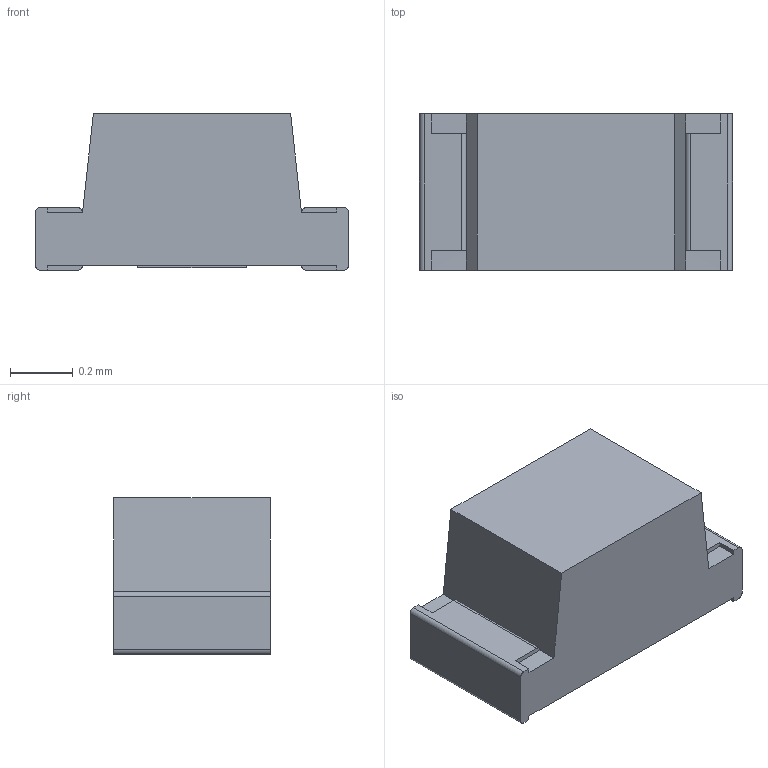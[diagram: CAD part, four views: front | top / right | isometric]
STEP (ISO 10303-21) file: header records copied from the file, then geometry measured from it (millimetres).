
FILE_DESCRIPTION(/* description */ ('STEP AP242 Edition 2','CAx-IF Rec.Pracs.---Representation and Presentation of Product Manufacturing Information (PMI)---4.0---2014-10-13','CAx-IF Rec.Pracs.---3D Tessellated Geometry---0.4---2014-09-14','2;1','CAx-IF Rec.Pracs.---User Defined Attributes---1.5---2016-08-15'),/* implementation_level */ '2;1');
FILE_NAME(/* name */ 'v2_assembly - LED_0402_1005Metric_5',/* time_stamp */ '2026-05-19T16:26:05Z',/* author */ (''),/* organization */ (''),/* preprocessor_version */ 'ST-DEVELOPER v20',/* originating_system */ 'ONSHAPE BY PTC INC, 1.215',/* authorisation */ ' ');
FILE_SCHEMA (('AP242_MANAGED_MODEL_BASED_3D_ENGINEERING_MIM_LF { 1 0 10303 442 3 1 4 }'));
Length unit declared in the file: metre
Products named in the file (1): LED_0402_1005Metric_5
Bounding box: 1 x 0.5 x 0.5 mm (x, y, z)
Volume: 0.2 mm3; surface area: 2.3 mm2
Topology: 1 solids, 1 shells, 44 faces, 119 edges, 78 vertices
Faces by surface type: plane 36, cylinder 8
Entity records: 1686 total; most frequent: CARTESIAN_POINT 242, ORIENTED_EDGE 238, DIRECTION 225, EDGE_CURVE 119, LINE 103, VECTOR 103, VERTEX_POINT 78, AXIS2_PLACEMENT_3D 61
